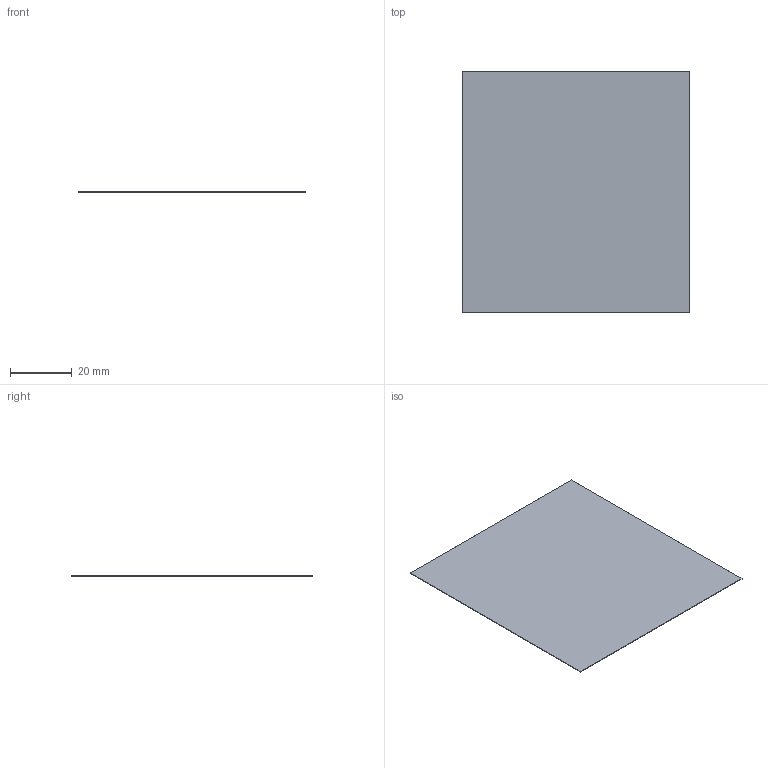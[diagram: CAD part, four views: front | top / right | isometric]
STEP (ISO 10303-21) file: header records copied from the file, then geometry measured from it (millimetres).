
FILE_DESCRIPTION (( 'STEP AP203' ), '1' );
FILE_NAME ('CV-PL-CX-120X84X79.STEP', '2024-03-15T09:55:45', ( '' ), ( '' ), 'SwSTEP 2.0', 'SolidWorks 2020', '' );
FILE_SCHEMA (( 'CONFIG_CONTROL_DESIGN' ));
Length unit declared in the file: millimetre
Products named in the file (1): CV-PL-CX-120X84X79
Bounding box: 74 x 78.4 x 0.19 mm (x, y, z)
Volume: 1102.3 mm3; surface area: 11661.1 mm2
Topology: 1 solids, 1 shells, 6 faces, 12 edges, 8 vertices
Faces by surface type: plane 6
Entity records: 233 total; most frequent: CARTESIAN_POINT 27, DIRECTION 26, ORIENTED_EDGE 24, LINE 12, EDGE_CURVE 12, VECTOR 12, VERTEX_POINT 8, PERSON_AND_ORGANIZATION 8
